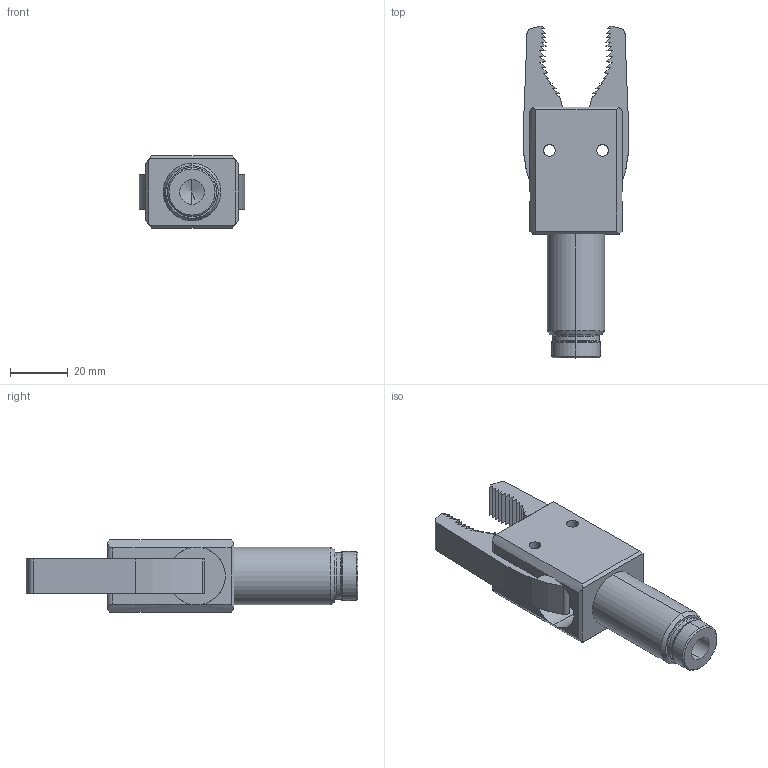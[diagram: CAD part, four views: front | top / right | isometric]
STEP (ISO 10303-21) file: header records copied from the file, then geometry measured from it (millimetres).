
FILE_DESCRIPTION (( 'STEP AP214' ), '1' );
FILE_NAME ('CA.GRZ.20.E.STEP', '2017-10-16T11:27:05', ( '' ), ( '' ), 'SwSTEP 2.0', 'SolidWorks 2017', '' );
FILE_SCHEMA (( 'AUTOMOTIVE_DESIGN' ));
Length unit declared in the file: millimetre
Products named in the file (3): CA.GRZ.20.E; GRZ.20.E; GRZ.20.01
Assembly tree (3 placements, depth 2):
  CA.GRZ.20.E
    GRZ.20.E  x2
    GRZ.20.01
Bounding box: 36.72 x 115.11 x 25 mm (x, y, z)
Volume: 44759 mm3; surface area: 19115.3 mm2
Topology: 3 solids, 3 shells, 157 faces, 422 edges, 275 vertices
Faces by surface type: plane 100, cylinder 43, cone 8, bspline 6
Entity records: 3770 total; most frequent: CARTESIAN_POINT 843, ORIENTED_EDGE 600, DIRECTION 580, EDGE_CURVE 300, AXIS2_PLACEMENT_3D 196, VERTEX_POINT 195, VECTOR 188, LINE 188
